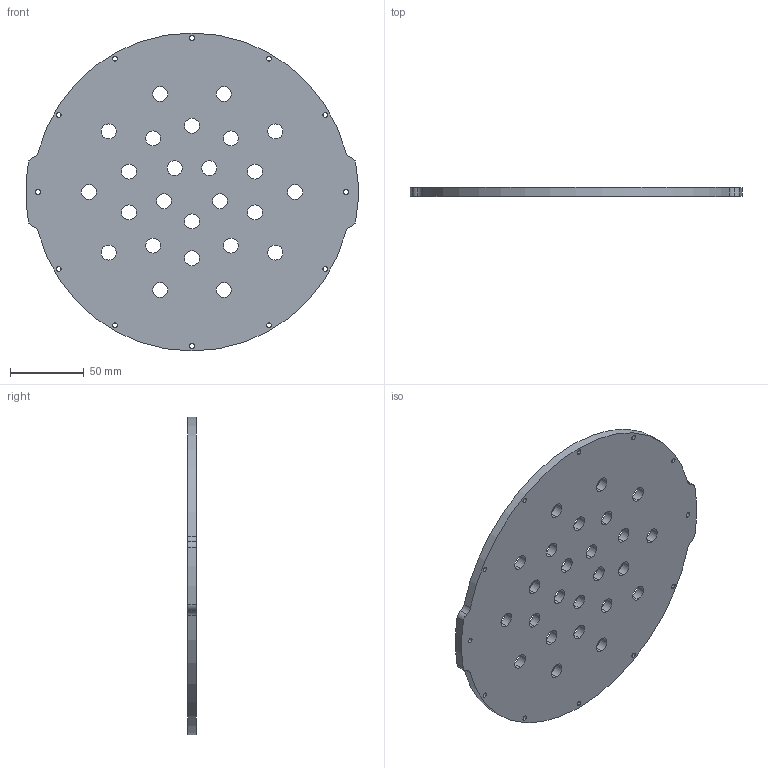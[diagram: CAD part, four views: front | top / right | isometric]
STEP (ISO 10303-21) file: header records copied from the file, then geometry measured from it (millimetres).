
FILE_DESCRIPTION (( 'STEP AP203' ), '1' );
FILE_NAME ('WTE8-M-END-CAP-25-10MM-X1A.STEP', '2017-05-12T17:08:24', ( '' ), ( '' ), 'SwSTEP 2.0', 'SolidWorks 2014', '' );
FILE_SCHEMA (( 'CONFIG_CONTROL_DESIGN' ));
Length unit declared in the file: millimetre
Products named in the file (1): WTE8-M-END-CAP-25-10MM-X1A
Bounding box: 225.52 x 6 x 215.9 mm (x, y, z)
Volume: 209618.1 mm3; surface area: 79564.5 mm2
Topology: 1 solids, 1 shells, 89 faces, 261 edges, 174 vertices
Faces by surface type: cylinder 87, plane 2
Entity records: 3294 total; most frequent: DIRECTION 615, CARTESIAN_POINT 525, ORIENTED_EDGE 522, AXIS2_PLACEMENT_3D 264, EDGE_CURVE 261, VERTEX_POINT 174, CIRCLE 174, EDGE_LOOP 163
